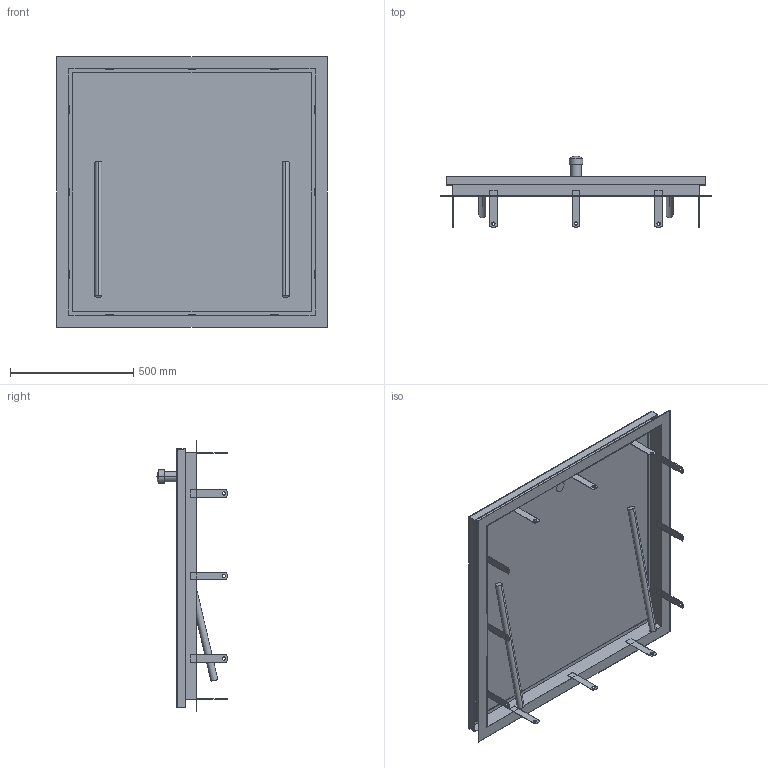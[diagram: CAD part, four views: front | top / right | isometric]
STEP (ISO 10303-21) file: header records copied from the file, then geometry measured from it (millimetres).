
FILE_DESCRIPTION((''),'2;1');
FILE_NAME('017_000105','2018-05-24T',('stat'),('HUBER SE'),'PRO/ENGINEER BY PARAMETRIC TECHNOLOGY CORPORATION, 2017170','PRO/ENGINEER BY PARAMETRIC TECHNOLOGY CORPORATION, 2017170','');
FILE_SCHEMA(('AUTOMOTIVE_DESIGN { 1 0 10303 214 1 1 1 1 }'));
Length unit declared in the file: millimetre
Products named in the file (1): 017_000105
Bounding box: 1100 x 288 x 1100 mm (x, y, z)
Volume: 4448710.5 mm3; surface area: 3751450.2 mm2
Topology: 4 solids, 4 shells, 142 faces, 364 edges, 233 vertices
Faces by surface type: plane 96, cylinder 44, sphere 2
Entity records: 4906 total; most frequent: DIRECTION 749, CARTESIAN_POINT 748, ORIENTED_EDGE 724, EDGE_CURVE 362, VECTOR 272, LINE 272, AXIS2_PLACEMENT_3D 237, VERTEX_POINT 233
